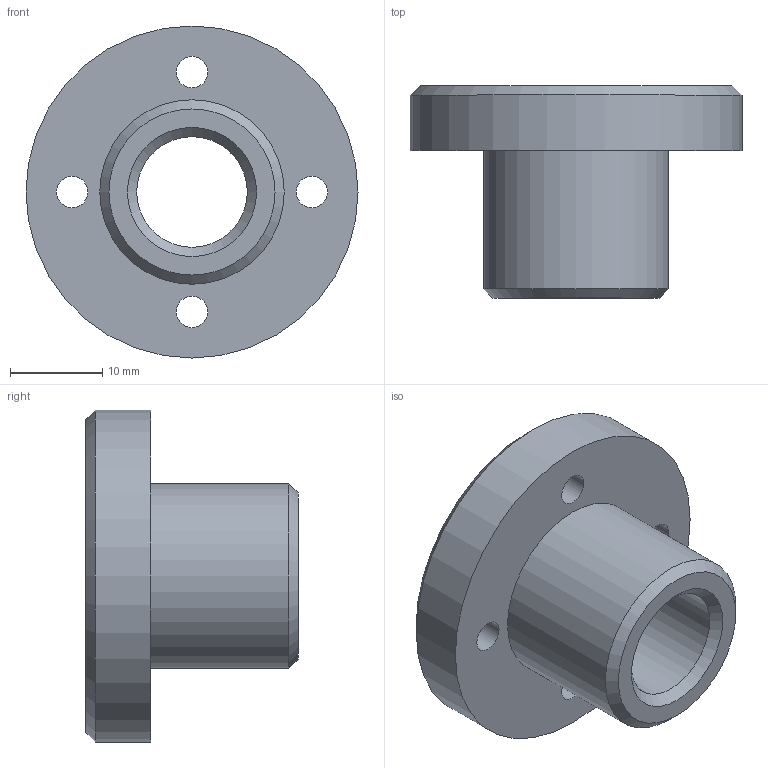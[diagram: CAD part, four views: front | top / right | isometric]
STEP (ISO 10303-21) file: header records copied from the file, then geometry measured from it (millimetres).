
FILE_DESCRIPTION(/* description */ (''),/* implementation_level */ '2;1');
FILE_NAME(/* name */ '',/* time_stamp */ '2026-05-29T16:37:56+09:00',/* author */ ('jhkim'),/* organization */ (''),/* preprocessor_version */ 'ST-DEVELOPER v20.1',/* originating_system */ 'Autodesk Inventor 2027',/* authorisation */ '');
FILE_SCHEMA (('AUTOMOTIVE_DESIGN { 1 0 10303 214 3 1 1 }'));
Length unit declared in the file: millimetre
Products named in the file (1): 가이드 부시
Bounding box: 36 x 23 x 36 mm (x, y, z)
Volume: 8852.4 mm3; surface area: 4681.4 mm2
Topology: 1 solids, 1 shells, 22 faces, 45 edges, 30 vertices
Faces by surface type: cylinder 11, plane 7, cone 4
Full cylindrical faces by diameter (mm): 3.4 x4, 6.5 x4, 12 x1, 20 x1, 36 x1
Entity records: 662 total; most frequent: DIRECTION 121, CARTESIAN_POINT 98, ORIENTED_EDGE 90, AXIS2_PLACEMENT_3D 53, EDGE_CURVE 45, EDGE_LOOP 37, CIRCLE 30, VERTEX_POINT 30
